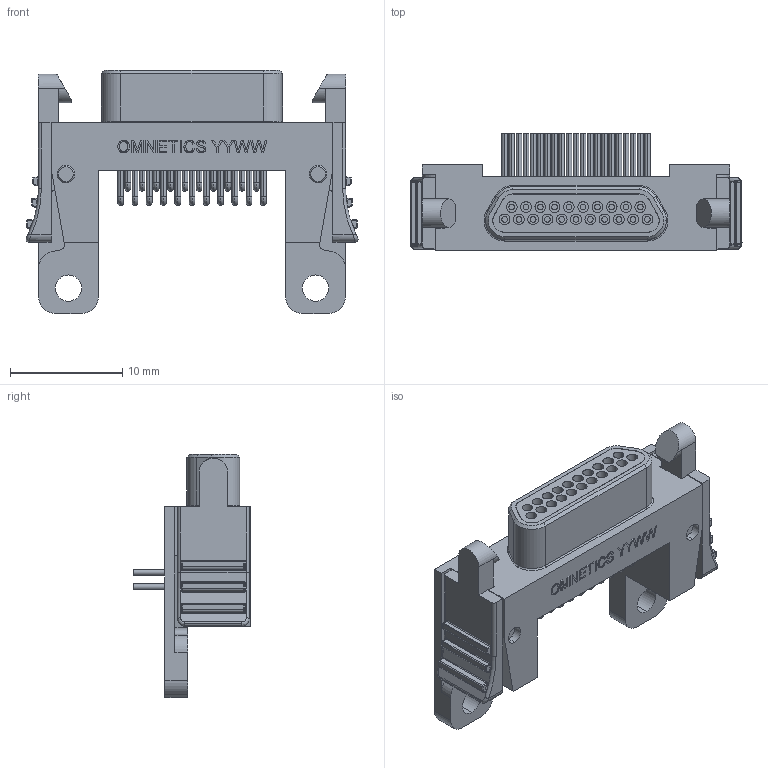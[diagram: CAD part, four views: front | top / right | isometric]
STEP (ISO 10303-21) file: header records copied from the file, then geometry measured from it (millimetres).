
FILE_DESCRIPTION (( 'STEP AP214' ), '1' );
FILE_NAME ('A98033-021 REV B.STEP', '2021-01-27T16:00:51', ( '' ), ( '' ), 'SwSTEP 2.0', 'SolidWorks 2019', '' );
FILE_SCHEMA (( 'AUTOMOTIVE_DESIGN' ));
Length unit declared in the file: inch
Products named in the file (1): A98033-021 REV B
Bounding box: 29.52 x 10.43 x 21.62 mm (x, y, z)
Volume: 1603 mm3; surface area: 3260.6 mm2
Topology: 1 solids, 1 shells, 932 faces, 2158 edges, 1323 vertices
Faces by surface type: cylinder 398, plane 314, torus 79, bspline 74, cone 55, sphere 12
Entity records: 41688 total; most frequent: CARTESIAN_POINT 8278, DIRECTION 4590, ORIENTED_EDGE 4280, EDGE_CURVE 2140, AXIS2_PLACEMENT_3D 1754, VERTEX_POINT 1323, LINE 1082, VECTOR 1082
